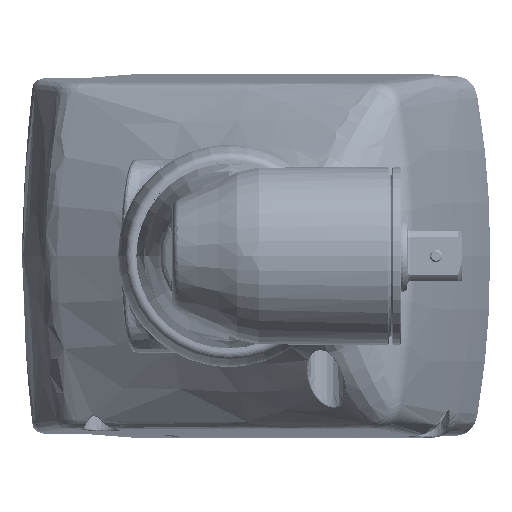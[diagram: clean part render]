
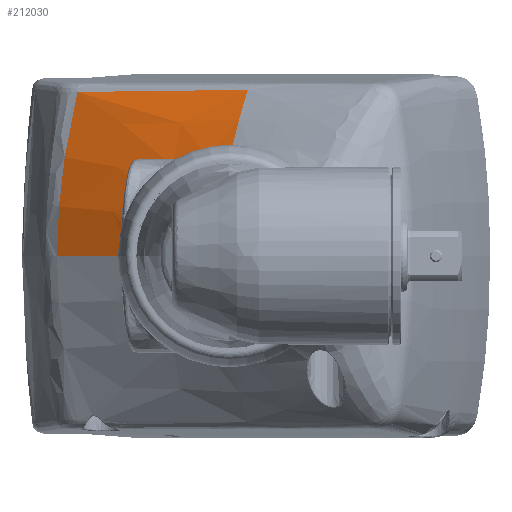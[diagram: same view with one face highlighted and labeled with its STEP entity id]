
A CAD part, left-side view. The second image highlights one B-rep face of the part: STEP entity #212030.
In plain terms, the highlighted free-form (B-spline) face has degree [3, 3] with [4, 7] control points.
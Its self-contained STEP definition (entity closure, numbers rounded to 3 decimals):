
#67542=CARTESIAN_POINT('',(327.813,32.927,
0.));
#67544=CARTESIAN_POINT('',(327.813,32.927,
0.));
#67545=CARTESIAN_POINT('',(324.288,28.073,
0.));
#67546=CARTESIAN_POINT('',(320.85,23.157,
0.));
#67547=CARTESIAN_POINT('',(317.501,18.18,
0.));
#90790=CARTESIAN_POINT('',(317.501,18.18,
0.));
#90791=CARTESIAN_POINT('',(317.506,18.188,
0.618));
#90792=CARTESIAN_POINT('',(317.507,18.143,1.869));
#90793=CARTESIAN_POINT('',(317.465,17.87,3.763));
#90794=CARTESIAN_POINT('',(317.38,17.394,5.647));
#90795=CARTESIAN_POINT('',(317.248,16.709,7.514));
#90796=CARTESIAN_POINT('',(317.065,15.82,9.319));
#90797=CARTESIAN_POINT('',(316.832,14.755,11.014));
#90798=CARTESIAN_POINT('',(316.539,13.514,12.601));
#90799=CARTESIAN_POINT('',(316.178,12.096,14.077));
#90800=CARTESIAN_POINT('',(315.736,10.474,15.458));
#90801=CARTESIAN_POINT('',(315.205,8.661,16.719));
#90802=CARTESIAN_POINT('',(314.583,6.69,17.824));
#90803=CARTESIAN_POINT('',(313.836,4.525,18.777));
#90804=CARTESIAN_POINT('',(312.952,2.15,19.583));
#90805=CARTESIAN_POINT('',(312.23,0.392,
19.995));
#90806=CARTESIAN_POINT('',(311.832,-0.521,
20.159));
#90808=CARTESIAN_POINT('',(311.832,-0.521,
20.159));
#90816=CARTESIAN_POINT('',(331.725,29.001,31.445));
#90817=CARTESIAN_POINT('',(331.392,29.345,29.976));
#90818=CARTESIAN_POINT('',(330.693,30.067,26.766));
#90819=CARTESIAN_POINT('',(329.501,31.285,20.118));
#90820=CARTESIAN_POINT('',(328.679,32.109,14.429));
#90821=CARTESIAN_POINT('',(327.912,32.839,6.271));
#90822=CARTESIAN_POINT('',(327.814,32.928,2.033));
#90823=CARTESIAN_POINT('',(327.813,32.927,
0.));
#91249=CARTESIAN_POINT('',(311.832,-0.521,
20.159));
#91250=CARTESIAN_POINT('',(312.72,-0.932,
22.072));
#91251=CARTESIAN_POINT('',(314.403,-1.706,
25.28));
#91252=CARTESIAN_POINT('',(316.785,-2.791,
29.117));
#91253=CARTESIAN_POINT('',(318.147,-3.407,
31.087));
#91254=CARTESIAN_POINT('',(318.698,-3.655,
31.851));
#91275=CARTESIAN_POINT('',(318.698,-3.655,
31.851));
#91276=CARTESIAN_POINT('',(320.116,-0.059,
31.811));
#91277=CARTESIAN_POINT('',(322.968,7.155,31.726));
#91278=CARTESIAN_POINT('',(327.309,18.041,31.592));
#91279=CARTESIAN_POINT('',(330.245,25.341,31.494));
#91280=CARTESIAN_POINT('',(331.725,29.001,31.445));
#131281=VERTEX_POINT('',#67542);
#131282=VERTEX_POINT('',#67547);
#138399=VERTEX_POINT('',#90808);
#138400=VERTEX_POINT('',#90816);
#138401=VERTEX_POINT('',#91275);
#211991=CARTESIAN_POINT('',(332.641,30.846,
31.998));
#211992=CARTESIAN_POINT('',(332.086,31.129,
29.722));
#211993=CARTESIAN_POINT('',(330.938,31.723,
24.737));
#211994=CARTESIAN_POINT('',(329.426,32.522,
16.85));
#211995=CARTESIAN_POINT('',(328.309,33.113,
8.338));
#211996=CARTESIAN_POINT('',(328.03,33.245,
2.588));
#211997=CARTESIAN_POINT('',(328.034,33.229,
-0.333));
#211998=CARTESIAN_POINT('',(328.002,19.211,
32.042));
#211999=CARTESIAN_POINT('',(327.113,19.641,
29.86));
#212000=CARTESIAN_POINT('',(325.265,20.551,
25.001));
#212001=CARTESIAN_POINT('',(322.806,21.796,
17.123));
#212002=CARTESIAN_POINT('',(320.978,22.726,
8.493));
#212003=CARTESIAN_POINT('',(320.52,22.935,
2.632));
#212004=CARTESIAN_POINT('',(320.528,22.911,
-0.338));
#212005=CARTESIAN_POINT('',(323.376,7.566,
32.085));
#212006=CARTESIAN_POINT('',(322.183,8.121,
29.998));
#212007=CARTESIAN_POINT('',(319.708,9.289,
25.267));
#212008=CARTESIAN_POINT('',(316.428,10.874,
17.401));
#212009=CARTESIAN_POINT('',(314.001,12.057,
8.654));
#212010=CARTESIAN_POINT('',(313.4,12.331,
2.679));
#212011=CARTESIAN_POINT('',(313.417,12.307,
-0.344));
#212012=CARTESIAN_POINT('',(318.764,-4.087,
32.129));
#212013=CARTESIAN_POINT('',(317.299,-3.428,
30.135));
#212014=CARTESIAN_POINT('',(314.274,-2.055,
25.529));
#212015=CARTESIAN_POINT('',(310.308,-0.227,
17.669));
#212016=CARTESIAN_POINT('',(307.399,1.129,
8.803));
#212017=CARTESIAN_POINT('',(306.693,1.46,
2.72));
#212018=CARTESIAN_POINT('',(306.722,1.447,
-0.35));
#212019=B_SPLINE_SURFACE_WITH_KNOTS('',3,3,((#211991,#211992,#211993,#211994,
#211995,#211996,#211997),(#211998,#211999,#212000,#212001,#212002,#212003,
#212004),(#212005,#212006,#212007,#212008,#212009,#212010,#212011),(#212012,
#212013,#212014,#212015,#212016,#212017,#212018)),.UNSPECIFIED.,.F.,.F.,.F.,(4,
4),(4,1,1,1,4),(0.192,0.647),(0.032,0.25,
0.5,0.75,1.01),.UNSPECIFIED.);
#212020=ORIENTED_EDGE('',*,*,#163600,.F.);
#212022=ORIENTED_EDGE('',*,*,#212021,.F.);
#212024=ORIENTED_EDGE('',*,*,#212023,.F.);
#212026=ORIENTED_EDGE('',*,*,#212025,.F.);
#212027=ORIENTED_EDGE('',*,*,#211982,.F.);
#212028=EDGE_LOOP('',(#212020,#212022,#212024,#212026,#212027));
#212029=FACE_OUTER_BOUND('',#212028,.F.);
#212030=ADVANCED_FACE('',(#212029),#212019,.F.);
#67548=B_SPLINE_CURVE_WITH_KNOTS('',3,(#67544,#67545,#67546,#67547),
.UNSPECIFIED.,.F.,.F.,(4,4),(0.,1.),.UNSPECIFIED.);
#90807=B_SPLINE_CURVE_WITH_KNOTS('',3,(#90790,#90791,#90792,#90793,#90794,
#90795,#90796,#90797,#90798,#90799,#90800,#90801,#90802,#90803,#90804,#90805,
#90806),.UNSPECIFIED.,.F.,.F.,(4,1,1,1,1,1,1,1,1,1,1,1,1,1,4),(0.,
0.071,0.143,0.214,0.286,
0.357,0.429,0.5,0.571,0.643,
0.714,0.786,0.857,0.929,1.),
.UNSPECIFIED.);
#90824=B_SPLINE_CURVE_WITH_KNOTS('',3,(#90816,#90817,#90818,#90819,#90820,
#90821,#90822,#90823),.UNSPECIFIED.,.F.,.F.,(4,1,1,1,1,4),(0.,0.2,0.4,
0.6,0.8,1.),.UNSPECIFIED.);
#91255=B_SPLINE_CURVE_WITH_KNOTS('',3,(#91249,#91250,#91251,#91252,#91253,
#91254),.UNSPECIFIED.,.F.,.F.,(4,1,1,4),(0.,0.454,
0.782,1.),.UNSPECIFIED.);
#91281=B_SPLINE_CURVE_WITH_KNOTS('',3,(#91275,#91276,#91277,#91278,#91279,
#91280),.UNSPECIFIED.,.F.,.F.,(4,1,1,4),(0.,0.333,
0.667,1.),.UNSPECIFIED.);
#163600=EDGE_CURVE('',#131281,#131282,#67548,.T.);
#211982=EDGE_CURVE('',#131282,#138399,#90807,.T.);
#212021=EDGE_CURVE('',#138400,#131281,#90824,.T.);
#212023=EDGE_CURVE('',#138401,#138400,#91281,.T.);
#212025=EDGE_CURVE('',#138399,#138401,#91255,.T.);
